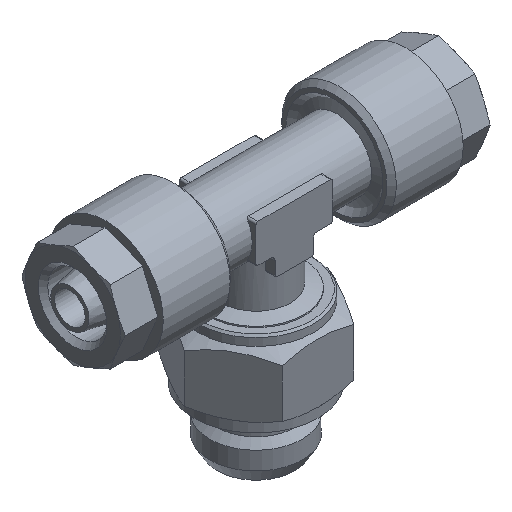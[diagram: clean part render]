
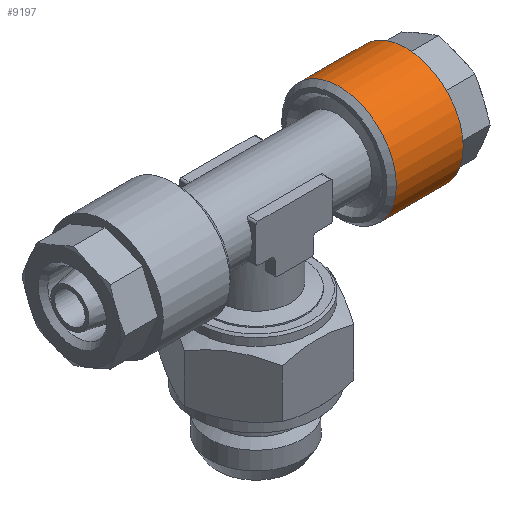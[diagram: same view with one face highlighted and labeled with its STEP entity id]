
A CAD part, isometric view. The second image highlights one B-rep face of the part: STEP entity #9197.
In plain terms, the highlighted cylindrical face has radius 6 mm (diameter 12 mm), a full revolution.
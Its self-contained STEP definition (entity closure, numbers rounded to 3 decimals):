
#3135=CYLINDRICAL_SURFACE('',#8875,6.);
#3266=ORIENTED_EDGE('',*,*,#4065,.F.);
#3267=ORIENTED_EDGE('',*,*,#4066,.T.);
#3735=CIRCLE('',#8874,6.);
#3736=CIRCLE('',#8876,6.);
#3854=VERTEX_POINT('',#5517);
#3855=VERTEX_POINT('',#5520);
#4065=EDGE_CURVE('',#3854,#3854,#3735,.T.);
#4066=EDGE_CURVE('',#3855,#3855,#3736,.T.);
#4321=EDGE_LOOP('',(#3266));
#4322=EDGE_LOOP('',(#3267));
#4527=FACE_BOUND('',#4321,.T.);
#4528=FACE_BOUND('',#4322,.T.);
#4823=DIRECTION('',(0.,1.,0.));
#4824=DIRECTION('',(0.,0.,-6.));
#4825=DIRECTION('',(0.,1.,0.));
#4826=DIRECTION('',(1.,0.,0.));
#4827=DIRECTION('',(0.,1.,0.));
#4828=DIRECTION('',(0.,0.,6.));
#5517=CARTESIAN_POINT('',(0.,7.5,-6.));
#5518=CARTESIAN_POINT('',(0.,7.5,0.));
#5519=CARTESIAN_POINT('',(0.,0.5,0.));
#5520=CARTESIAN_POINT('',(0.,0.5,6.));
#5521=CARTESIAN_POINT('',(0.,0.5,0.));
#8874=AXIS2_PLACEMENT_3D('',#5518,#4823,#4824);
#8875=AXIS2_PLACEMENT_3D('',#5519,#4825,#4826);
#8876=AXIS2_PLACEMENT_3D('',#5521,#4827,#4828);
#9197=ADVANCED_FACE('',(#4527,#4528),#3135,.T.);
